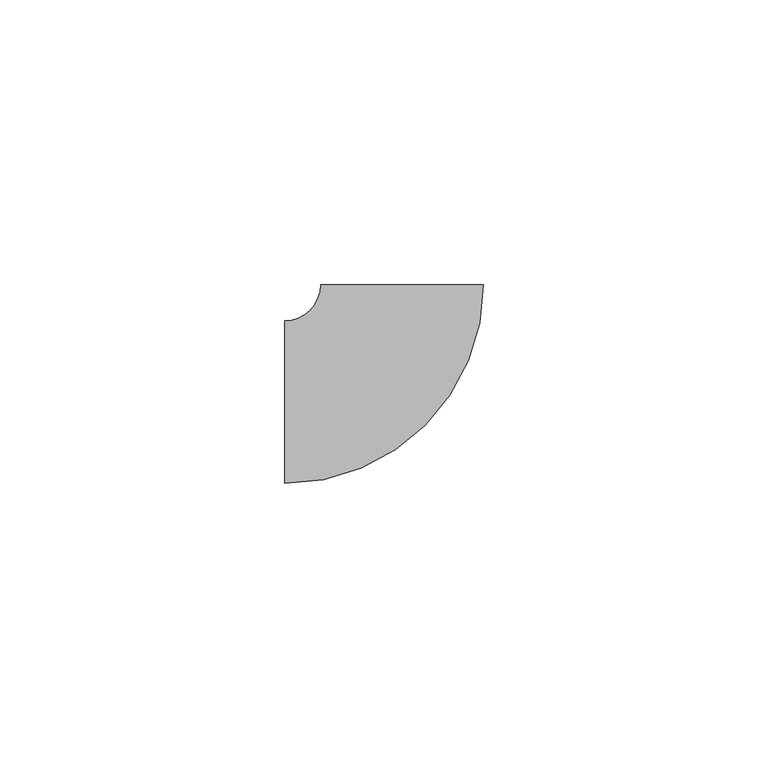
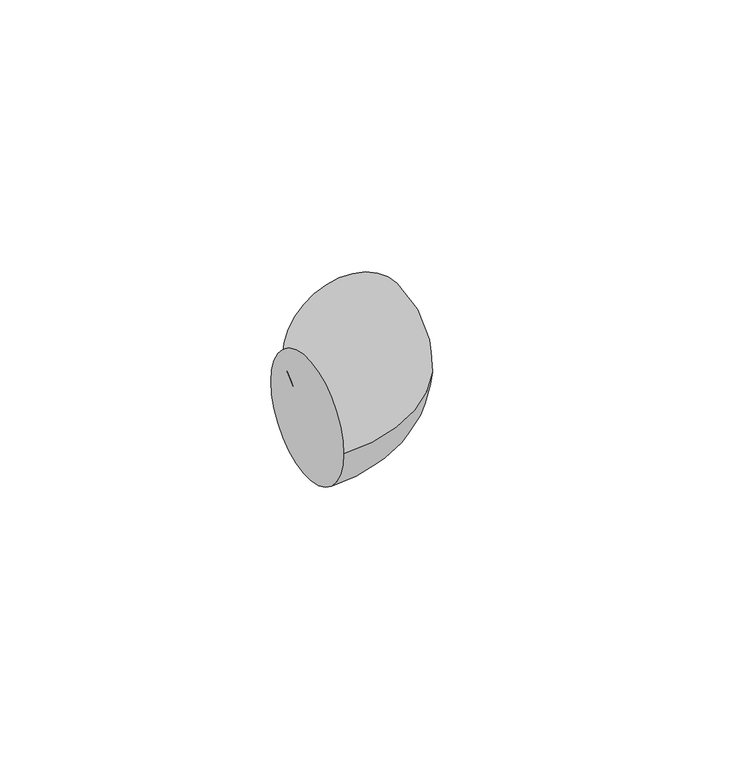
"""IFC4 building model written with IfcOpenShell, lengths in millimetres: pipe fitting geometry, M_Codo - Genérico : Estándar."""

from ifc_helpers import new_model, si_unit, point, frame, origin, place, context, project, spatial, circle_curve, ellipse_curve, trimmed, source, transform, mapped, element, save
from ifc_brep_helpers import plane_surface, revolved_surface, advanced_brep


def pipe_fitting_77af229b(model_context):
    return source(origin(), model_context, "Body", "AdvancedBrep", [
        advanced_brep(
        [(-20.6396896, -14.2875, 0.0), (-20.6396896, 14.2875, 0.0), (14.2853102, 20.6412052, 0.0), (-14.2896896, 20.6381737, 0.0)],
        [
            (0, 1, circle_curve(frame((-20.6396896, 0.0, 0.0), z_axis=(-1.0, 0.0, 0.0), x_axis=(0.0, 1.0, 0.0)), 14.2875)),
            (1, 0, circle_curve(frame((-20.6396896, 0.0, 0.0), z_axis=(-1.0, 0.0, 0.0), x_axis=(0.0, 1.0, 0.0)), 14.2875)),
            (2, 3, circle_curve(frame((-0.0021897, 20.6396895, 0.0), z_axis=(-0.000106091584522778, 0.9999999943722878, 0.0), x_axis=(-0.9999999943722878, -0.000106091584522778, 0.0)), 14.2875)),
            (3, 2, circle_curve(frame((-0.0021897, 20.6396895, 0.0), z_axis=(-0.000106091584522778, 0.9999999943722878, 0.0), x_axis=(-0.9999999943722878, -0.000106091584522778, 0.0)), 14.2875)),
            (3, 1, circle_curve(frame((-20.6396896, 20.6375, 0.0), z_axis=(0.0, 0.0, -1.0), x_axis=(0.0, -1.0, 0.0)), 6.35)),
            (0, 2, circle_curve(frame((-20.6396896, 20.6375, 0.0), z_axis=(0.0, 0.0, 1.0), x_axis=(0.0, -1.0, 0.0)), 34.925)),
        ],
        [
            plane_surface(frame((-20.6396896, 0.0, 0.0), z_axis=(-1.0, 0.0, 0.0), x_axis=(0.0, 0.0, 1.0))),
            plane_surface(frame((-0.0021897, 20.6396895, 0.0), z_axis=(-0.00010609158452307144, 0.9999999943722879, 0.0), x_axis=(0.0, 0.0, 1.0))),
            revolved_surface(trimmed(ellipse_curve(frame((-20.6396896, 0.0, 0.0), z_axis=(-1.0, 0.0, 0.0), x_axis=(0.0, 1.0, 0.0)), 14.2875, 14.2875), [point((-20.6396896, -14.2875, 0.0))], [point((-20.6396896, 14.2875, 0.0))], True, "CARTESIAN"), (-20.6396896, 20.6375, 0.0), (0.0, 0.0, 1.0)),
            revolved_surface(trimmed(ellipse_curve(frame((-20.6396896, 0.0, 0.0), z_axis=(-1.0, 0.0, 0.0), x_axis=(0.0, 1.0, 0.0)), 14.2875, 14.2875), [point((-20.6396896, 14.2875, 0.0))], [point((-20.6396896, -14.2875, 0.0))], True, "CARTESIAN"), (-20.6396896, 20.6375, 0.0), (0.0, 0.0, 1.0)),
        ],
        [
            (0, [[1, 2]]),
            (1, [[3, 4]]),
            (2, [[5, -1, 6, -4]]),
            (3, [[-6, -2, -5, -3]]),
        ],
    ),
    ])


if __name__ == "__main__":
    model = new_model("IFC4")
    model_context = context("Model", 3, world=origin())
    ifc_project = project(units=[si_unit("LENGTHUNIT", "METRE", prefix="MILLI")], contexts=[model_context])
    site = spatial("IfcSite", under=ifc_project)
    building = spatial("IfcBuilding", under=site)
    placement = place(None, origin())
    pipe_fitting_shape = pipe_fitting_77af229b(model_context)
    element("IfcPipeFitting", 1, ObjectType="M_Codo - Genérico : Estándar", at=placement, inside=building, context=model_context, shape_type="MappedRepresentation", body=[
        mapped(pipe_fitting_shape, transform((0.0, 0.0, 0.0), x_axis=(1.0, 0.0, 0.0), y_axis=(0.0, 1.0, 0.0), z_axis=(0.0, 0.0, 1.0))),
    ])
    save(model, "model.ifc")
